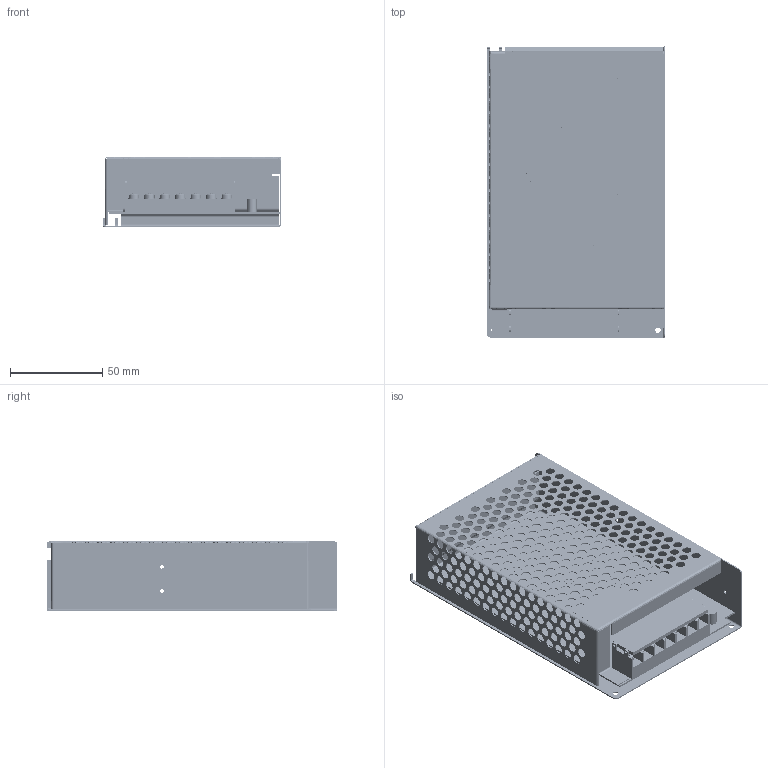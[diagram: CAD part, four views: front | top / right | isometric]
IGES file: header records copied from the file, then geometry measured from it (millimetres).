
Start section: SolidWorks IGES file using analytic representation for surfaces
Global section: file name: C:\Users\chris\Desktop\Nova pasta (2)\MS-100-12.IGS; native system: SolidWorks 2019; preprocessor: SolidWorks 2019; author: chris; date: 200226.110807; units: millimetre
Bounding box: 97 x 158 x 38.07 mm (x, y, z)
Surface area: 112025.5 mm2 (no closed solid volume)
Topology: 0 solids, 0 shells, 1171 faces, 29330 edges, 29330 vertices
Faces by surface type: revolution 827, bspline 344
